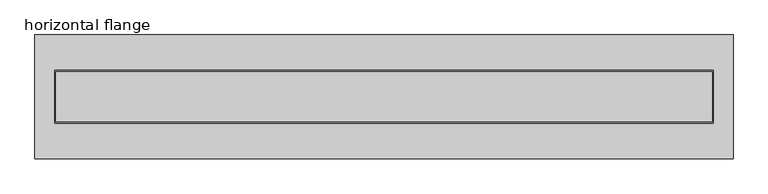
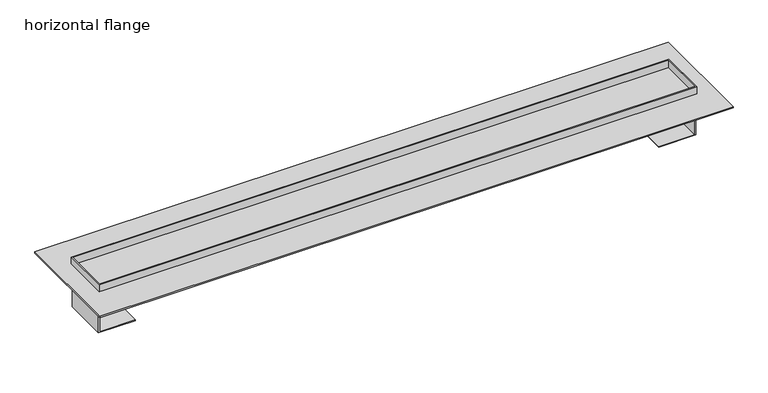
"""IFC4 building model written with IfcOpenShell, lengths in millimetres: sanitary terminal geometry, PF_ST_UN_ShowerDrain M plus_ACO : horizontal flange."""

from ifc_helpers import new_model, si_unit, frame, origin, origin_with_axes, place, context, project, spatial, polyline, outline, extrude, faceted_brep, source, transform, mapped, element, save


def horizontal_flange_236ca58d(model_context):
    return source(origin(), model_context, "Body", "SolidModel", [
        extrude(outline(polyline([(530.0, 94.0), (530.0, -94.0), (-530.0, -94.0), (-530.0, 94.0), (530.0, 94.0)])), origin_with_axes(), (0.0, 0.0, 1.0), 2.0),
        extrude(outline(polyline([(-16.5, -498.0), (-16.5, -500.0), (-71.5, -500.0), (-71.5, -438.0), (-70.5, -438.0), (-70.5, -498.0), (-16.5, -498.0)])), frame((0.0, -38.0, 0.0), z_axis=(0.0, 1.0, 0.0), x_axis=(0.0, 0.0, 1.0)), (0.0, 0.0, 1.0), 76.0),
        extrude(outline(polyline([(-16.5, 498.0), (-70.5, 498.0), (-70.5, 438.0), (-71.5, 438.0), (-71.5, 500.0), (-16.5, 500.0), (-16.5, 498.0)])), frame((0.0, -38.0, 0.0), z_axis=(0.0, 1.0, 0.0), x_axis=(0.0, 0.0, 1.0)), (0.0, 0.0, 1.0), 76.0),
        faceted_brep([(500.0, 40.0, 15.0), (-500.0, 40.0, 15.0), (-500.0, -40.0, 15.0), (500.0, -40.0, 15.0), (-498.0, -38.0, 15.0), (-498.0, 38.0, 15.0), (498.0, 38.0, 15.0), (498.0, -38.0, 15.0), (500.0, 40.0, -16.5), (500.0, -40.0, -16.5), (-500.0, -40.0, -16.5), (-500.0, 40.0, -16.5), (-498.0, 38.0, -6.0), (-498.0, -38.0, -6.0), (498.0, -38.0, -6.0), (498.0, 38.0, -6.0)], [[[0, 1, 2, 3], [4, 5, 6, 7]], [[8, 9, 10, 11]], [[1, 0, 8, 11]], [[2, 1, 11, 10]], [[3, 2, 10, 9]], [[0, 3, 9, 8]], [[12, 13, 14, 15]], [[13, 12, 5, 4]], [[14, 13, 4, 7]], [[15, 14, 7, 6]], [[12, 15, 6, 5]]]),
    ])


if __name__ == "__main__":
    model = new_model("IFC4")
    model_context = context("Model", 3, world=origin())
    ifc_project = project(units=[si_unit("LENGTHUNIT", "METRE", prefix="MILLI")], contexts=[model_context])
    site = spatial("IfcSite", under=ifc_project)
    building = spatial("IfcBuilding", under=site)
    placement = place(None, origin())
    horizontal_flange_shape = horizontal_flange_236ca58d(model_context)
    element("IfcSanitaryTerminal", 1, ObjectType="PF_ST_UN_ShowerDrain M plus_ACO : horizontal flange", at=placement, inside=building, context=model_context, shape_type="MappedRepresentation", body=[
        mapped(horizontal_flange_shape, transform((0.0, 0.0, 0.0), x_axis=(1.0, 0.0, 0.0), y_axis=(0.0, 1.0, 0.0), z_axis=(0.0, 0.0, 1.0))),
    ])
    save(model, "model.ifc")
